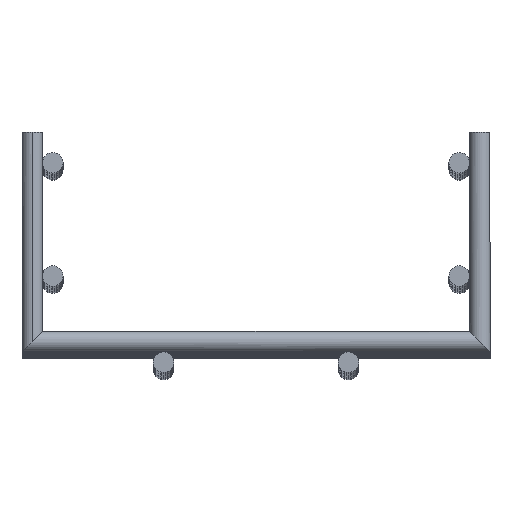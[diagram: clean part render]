
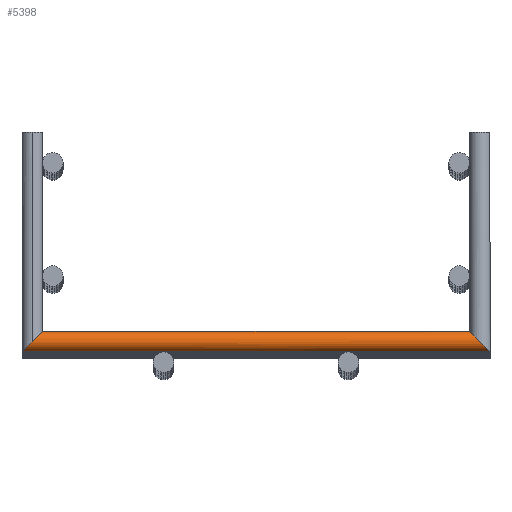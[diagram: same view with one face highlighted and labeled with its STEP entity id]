
A CAD part, top view. The second image highlights one B-rep face of the part: STEP entity #5398.
In plain terms, the highlighted cylindrical face has radius 2.5 mm (diameter 5 mm), a partial arc.
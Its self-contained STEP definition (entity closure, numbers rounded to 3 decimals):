
#1 = CARTESIAN_POINT ( 'NONE',  ( -57., -2.5, 0. ) ) ;
#17 =( BOUNDED_CURVE ( )  B_SPLINE_CURVE ( 3, ( #1, #68, #67, #66 ),
 .UNSPECIFIED., .F., .T. ) 
 B_SPLINE_CURVE_WITH_KNOTS ( ( 4, 4 ),
 ( 3.142, 4.712 ),
 .UNSPECIFIED. ) 
 CURVE ( )  GEOMETRIC_REPRESENTATION_ITEM ( )  RATIONAL_B_SPLINE_CURVE ( ( 1., 0.805, 0.805, 1. ) ) 
 REPRESENTATION_ITEM ( '' )  );
#19 = CARTESIAN_POINT ( 'NONE',  ( -57., -2.5, 0. ) ) ;
#66 = CARTESIAN_POINT ( 'NONE',  ( -54.5, 0., 2.5 ) ) ;
#67 = CARTESIAN_POINT ( 'NONE',  ( -55.964, -1.464, 2.5 ) ) ;
#68 = CARTESIAN_POINT ( 'NONE',  ( -57., -2.5, 1.464 ) ) ;
#5141 = EDGE_LOOP ( 'NONE', ( #5293, #5400, #5260, #5183, #5257 ) ) ;
#5183 = ORIENTED_EDGE ( 'NONE', *, *, #5188, .F. ) ;
#5188 = EDGE_CURVE ( 'NONE', #5359, #5296, #8081, .T. ) ;
#5257 = ORIENTED_EDGE ( 'NONE', *, *, #5402, .F. ) ;
#5260 = ORIENTED_EDGE ( 'NONE', *, *, #5295, .F. ) ;
#5293 = ORIENTED_EDGE ( 'NONE', *, *, #5405, .F. ) ;
#5294 = EDGE_CURVE ( 'NONE', #5436, #5397, #8264, .T. ) ;
#5295 = EDGE_CURVE ( 'NONE', #5296, #5397, #8344, .T. ) ;
#5296 = VERTEX_POINT ( 'NONE', #8351 ) ;
#5334 = VERTEX_POINT ( 'NONE', #8257 ) ;
#5359 = VERTEX_POINT ( 'NONE', #8308 ) ;
#5397 = VERTEX_POINT ( 'NONE', #8420 ) ;
#5398 = ADVANCED_FACE ( 'NONE', ( #8419 ), #8428, .T. ) ;
#5400 = ORIENTED_EDGE ( 'NONE', *, *, #5294, .T. ) ;
#5402 = EDGE_CURVE ( 'NONE', #5334, #5359, #8393, .T. ) ;
#5405 = EDGE_CURVE ( 'NONE', #5436, #5334, #17, .T. ) ;
#5436 = VERTEX_POINT ( 'NONE', #19 ) ;
#8050 = DIRECTION ( 'NONE',  ( 1., 0., 0. ) ) ;
#8076 = VECTOR ( 'NONE', #8050, 1000. ) ;
#8081 = LINE ( 'NONE', #8083, #8076 ) ;
#8083 = CARTESIAN_POINT ( 'NONE',  ( -54.5, 2.5, 0. ) ) ;
#8257 = CARTESIAN_POINT ( 'NONE',  ( -54.5, 0., 2.5 ) ) ;
#8263 = CARTESIAN_POINT ( 'NONE',  ( -54.5, -2.5, 0. ) ) ;
#8264 = LINE ( 'NONE', #8263, #8350 ) ;
#8271 = CARTESIAN_POINT ( 'NONE',  ( 52., 2.5, 5. ) ) ;
#8272 = CARTESIAN_POINT ( 'NONE',  ( 52., 2.5, 0. ) ) ;
#8308 = CARTESIAN_POINT ( 'NONE',  ( -52., 2.5, 0. ) ) ;
#8344 =( BOUNDED_CURVE ( )  B_SPLINE_CURVE ( 3, ( #8272, #8271, #8359, #8358 ),
 .UNSPECIFIED., .F., .T. ) 
 B_SPLINE_CURVE_WITH_KNOTS ( ( 4, 4 ),
 ( 3.142, 6.283 ),
 .UNSPECIFIED. ) 
 CURVE ( )  GEOMETRIC_REPRESENTATION_ITEM ( )  RATIONAL_B_SPLINE_CURVE ( ( 1., 0.333, 0.333, 1. ) ) 
 REPRESENTATION_ITEM ( '' )  );
#8349 = DIRECTION ( 'NONE',  ( 1., 0., 0. ) ) ;
#8350 = VECTOR ( 'NONE', #8349, 1000. ) ;
#8351 = CARTESIAN_POINT ( 'NONE',  ( 52., 2.5, 0. ) ) ;
#8358 = CARTESIAN_POINT ( 'NONE',  ( 57., -2.5, 0. ) ) ;
#8359 = CARTESIAN_POINT ( 'NONE',  ( 57., -2.5, 5. ) ) ;
#8389 = CARTESIAN_POINT ( 'NONE',  ( -52., 2.5, 0. ) ) ;
#8390 = CARTESIAN_POINT ( 'NONE',  ( -52., 2.5, 1.464 ) ) ;
#8391 = CARTESIAN_POINT ( 'NONE',  ( -53.036, 1.464, 2.5 ) ) ;
#8392 = CARTESIAN_POINT ( 'NONE',  ( -54.5, 0., 2.5 ) ) ;
#8393 =( BOUNDED_CURVE ( )  B_SPLINE_CURVE ( 3, ( #8392, #8391, #8390, #8389 ),
 .UNSPECIFIED., .F., .T. ) 
 B_SPLINE_CURVE_WITH_KNOTS ( ( 4, 4 ),
 ( 4.712, 6.283 ),
 .UNSPECIFIED. ) 
 CURVE ( )  GEOMETRIC_REPRESENTATION_ITEM ( )  RATIONAL_B_SPLINE_CURVE ( ( 1., 0.805, 0.805, 1. ) ) 
 REPRESENTATION_ITEM ( '' )  );
#8418 = DIRECTION ( 'NONE',  ( 0., 1., 0. ) ) ;
#8419 = FACE_OUTER_BOUND ( 'NONE', #5141, .T. ) ;
#8420 = CARTESIAN_POINT ( 'NONE',  ( 57., -2.5, 0. ) ) ;
#8424 = DIRECTION ( 'NONE',  ( 1., 0., 0. ) ) ;
#8425 = CARTESIAN_POINT ( 'NONE',  ( -54.5, 0., 0. ) ) ;
#8426 = AXIS2_PLACEMENT_3D ( 'NONE', #8425, #8424, #8418 ) ;
#8428 = CYLINDRICAL_SURFACE ( 'NONE', #8426, 2.5 ) ;
